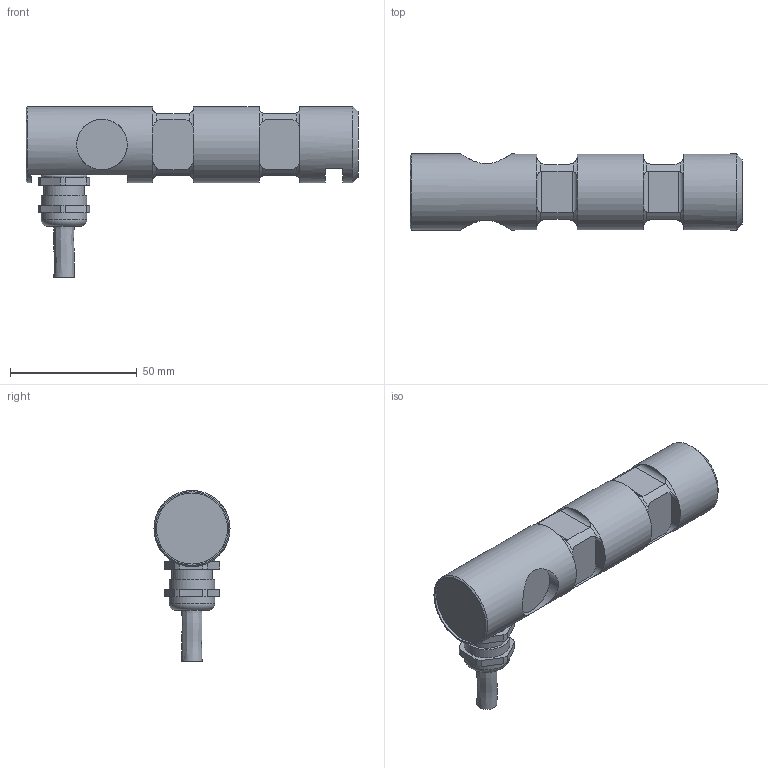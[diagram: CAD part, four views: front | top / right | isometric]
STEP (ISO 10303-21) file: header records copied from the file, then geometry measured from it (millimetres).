
FILE_DESCRIPTION(/* description */ ('Alibre Inc.'),/* implementation_level */ '2;1');
FILE_NAME(/* name */ 'export0',/* time_stamp */ '2018-10-22T14:07:58+02:00',/* author */ (''),/* organization */ (''),/* preprocessor_version */ 'ST-DEVELOPER v17',/* originating_system */ 'Alibre',/* authorisation */ '');
FILE_SCHEMA (('CONFIG_CONTROL_DESIGN'));
Length unit declared in the file: centimetre
Products named in the file (6): ID_1; ID_2; ID_3
Bounding box: 131 x 30 x 67.45 mm (x, y, z)
Volume: 83886.4 mm3; surface area: 19289 mm2
Topology: 4 solids, 4 shells, 144 faces, 353 edges, 223 vertices
Faces by surface type: plane 64, cylinder 57, torus 18, cone 4, bspline 1
Full cylindrical faces by diameter (mm): 8 x1, 14.376 x1, 16 x2, 18 x2, 20 x2, 28 x1, 30 x3
Entity records: 7439 total; most frequent: CARTESIAN_POINT 4027, ORIENTED_EDGE 646, DIRECTION 438, EDGE_CURVE 323, VERTEX_POINT 215, AXIS2_PLACEMENT_3D 183, FACE_BOUND 174, EDGE_LOOP 172
